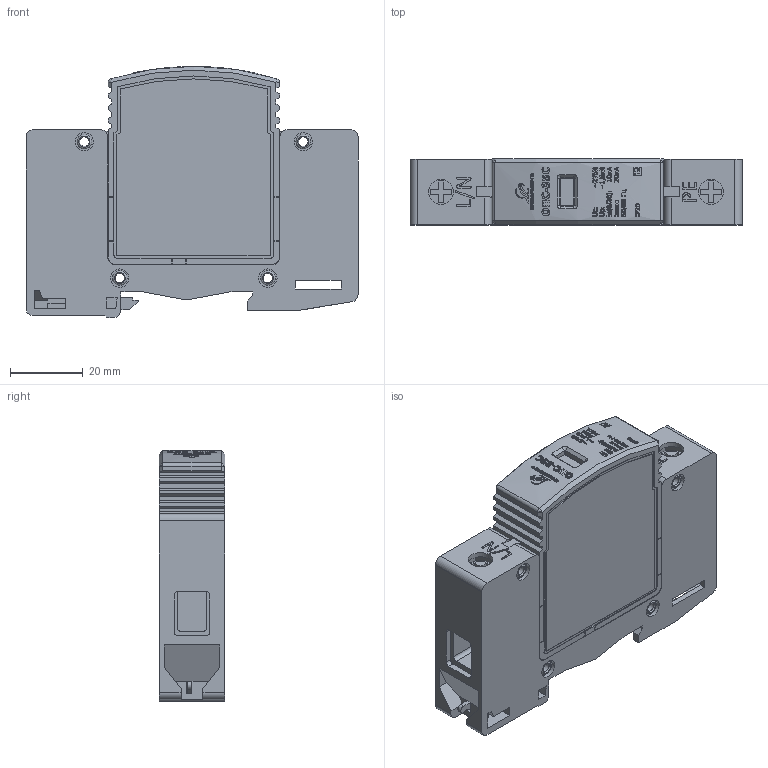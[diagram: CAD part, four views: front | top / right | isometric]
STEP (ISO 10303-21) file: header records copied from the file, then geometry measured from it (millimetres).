
FILE_DESCRIPTION(('STEP AP203'), '1');
FILE_NAME('ﾎﾏﾑ-35C-1P', '2026-08-05T12:06:22', ('Perepelkin'), (''), 'ASCON STEP Converter 1.6', 'ASCON Math Kernel', '');
FILE_SCHEMA(('CONFIG_CONTROL_DESIGN'));
Length unit declared in the file: millimetre
Assembly tree (2 placements, depth 2):
  (unnamed)
    (unnamed)
    (unnamed)
Bounding box: 91 x 18 x 68.8 mm (x, y, z)
Volume: 82611.4 mm3; surface area: 29890.1 mm2
Topology: 2 solids, 2 shells, 2230 faces, 6189 edges, 4101 vertices
Faces by surface type: plane 1196, extrusion 634, cylinder 370, torus 18, cone 8, bspline 4
Full cylindrical faces by diameter (mm): 2.6 x4, 5 x8, 6.8 x2, 9 x3
Entity records: 103379 total; most frequent: CARTESIAN_POINT 35276, ORIENTED_EDGE 12300, DIRECTION 8862, EDGE_CURVE 6150, VERTEX_POINT 4100, VECTOR 3872, LINE 3238, AXIS2_PLACEMENT_3D 2495
